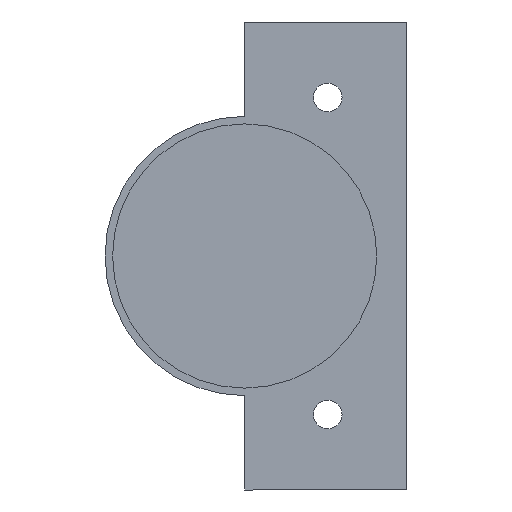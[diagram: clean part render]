
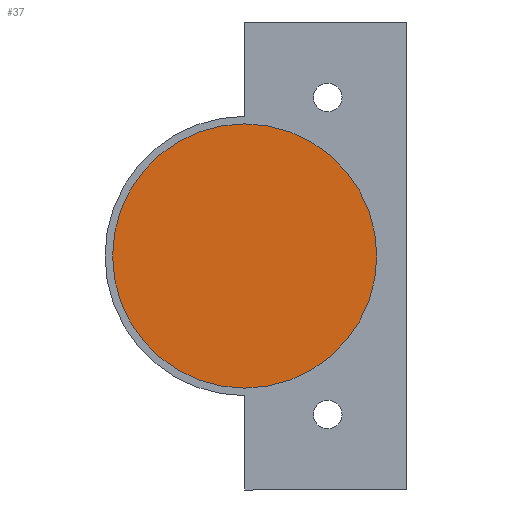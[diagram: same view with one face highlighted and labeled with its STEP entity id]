
A CAD part, front view. The second image highlights one B-rep face of the part: STEP entity #37.
In plain terms, the highlighted planar face has unit normal (0, -1, 0).
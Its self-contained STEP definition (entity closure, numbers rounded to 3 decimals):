
#37 = ADVANCED_FACE ( 'NONE', ( #382 ), #912, .T. ) ;
#69 = ORIENTED_EDGE ( 'NONE', *, *, #631, .T. ) ;
#217 = ORIENTED_EDGE ( 'NONE', *, *, #668, .T. ) ;
#307 = EDGE_LOOP ( 'NONE', ( #217, #69 ) ) ;
#382 = FACE_OUTER_BOUND ( 'NONE', #307, .T. ) ;
#424 = CIRCLE ( 'NONE', #730, 17.5 ) ;
#466 = CIRCLE ( 'NONE', #692, 17.5 ) ;
#628 = AXIS2_PLACEMENT_3D ( 'NONE', #911, #914, #915 ) ;
#631 = EDGE_CURVE ( 'NONE', #1082, #1035, #424, .T. ) ;
#668 = EDGE_CURVE ( 'NONE', #1035, #1082, #466, .T. ) ;
#692 = AXIS2_PLACEMENT_3D ( 'NONE', #1150, #1149, #1148 ) ;
#730 = AXIS2_PLACEMENT_3D ( 'NONE', #814, #815, #816 ) ;
#814 = CARTESIAN_POINT ( 'NONE',  ( 2.5, -12.6, 0. ) ) ;
#815 = DIRECTION ( 'NONE',  ( 0., -1., 0. ) ) ;
#816 = DIRECTION ( 'NONE',  ( 1., 0., 0. ) ) ;
#911 = CARTESIAN_POINT ( 'NONE',  ( 2.5, -12.6, 0. ) ) ;
#912 = PLANE ( 'NONE',  #628 ) ;
#914 = DIRECTION ( 'NONE',  ( 0., -1., 0. ) ) ;
#915 = DIRECTION ( 'NONE',  ( 1., 0., 0. ) ) ;
#1035 = VERTEX_POINT ( 'NONE', #1335 ) ;
#1082 = VERTEX_POINT ( 'NONE', #1387 ) ;
#1148 = DIRECTION ( 'NONE',  ( 1., 0., 0. ) ) ;
#1149 = DIRECTION ( 'NONE',  ( 0., -1., 0. ) ) ;
#1150 = CARTESIAN_POINT ( 'NONE',  ( 2.5, -12.6, 0. ) ) ;
#1335 = CARTESIAN_POINT ( 'NONE',  ( -15., -12.6, 0. ) ) ;
#1387 = CARTESIAN_POINT ( 'NONE',  ( 20., -12.6, 0. ) ) ;
